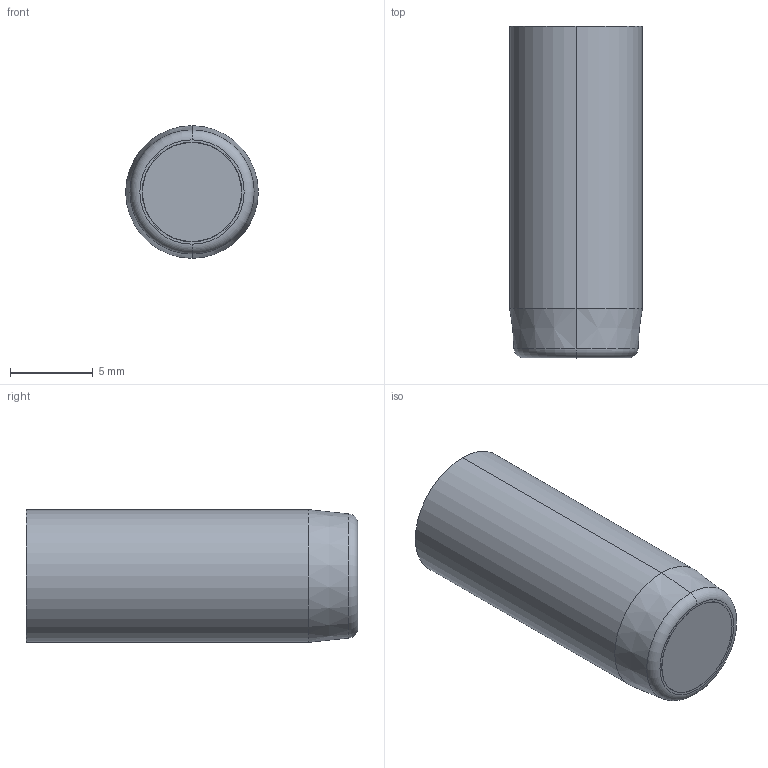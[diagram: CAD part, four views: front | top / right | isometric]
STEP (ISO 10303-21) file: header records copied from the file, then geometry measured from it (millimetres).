
FILE_DESCRIPTION (( 'STEP AP214' ), '1' );
FILE_NAME ('FA084700.STEP', '2013-06-28T07:42:06', ( '' ), ( '' ), 'SwSTEP 2.0', 'SolidWorks 2011', '' );
FILE_SCHEMA (( 'AUTOMOTIVE_DESIGN' ));
Length unit declared in the file: millimetre
Products named in the file (6): FA 084700-1; FA 084700-2 comprimido; FA 084700-3; 9FA 084700; FA084700; IA 4717SF
Assembly tree (5 placements, depth 2):
  FA084700
    9FA 084700
    IA 4717SF
    FA 084700-1
    FA 084700-2 comprimido
    FA 084700-3
Bounding box: 8 x 20 x 8 mm (x, y, z)
Volume: 847.7 mm3; surface area: 1504.1 mm2
Topology: 5 solids, 5 shells, 110 faces, 245 edges, 150 vertices
Faces by surface type: plane 43, cylinder 27, cone 24, torus 12, sphere 2, bspline 2
Entity records: 4701 total; most frequent: CARTESIAN_POINT 1969, DIRECTION 545, ORIENTED_EDGE 486, EDGE_CURVE 243, AXIS2_PLACEMENT_3D 222, VERTEX_POINT 150, EDGE_LOOP 125, ADVANCED_FACE 110
